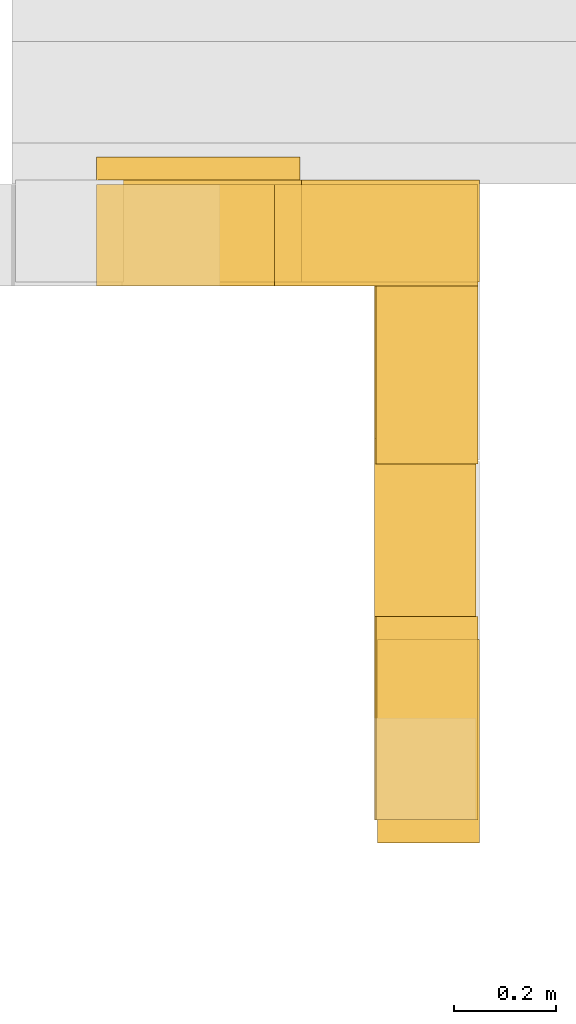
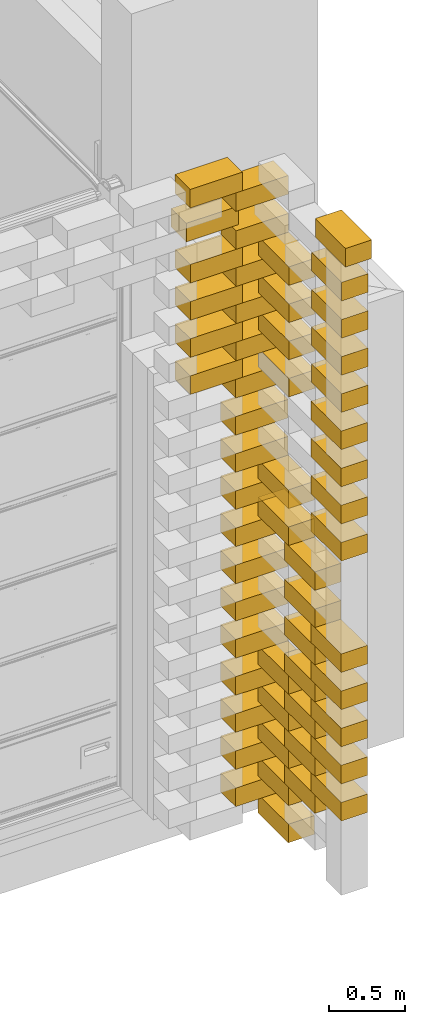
# One storey, part 57 of 62: 56 railings.
"""IFC2X3 building model written with IfcOpenShell, lengths in millimetres."""

from ifc_helpers import new_model, entity, si_unit, converted_unit, derived_unit, money_unit, direction, frame, origin_with_axes, place, context, subcontext, project, spatial, polyline, outline, extrude, material, type_object, element, save


model = new_model("IFC2X3")

# Units and contexts
model_context = context("Model", 3, precision=0.01, world=origin_with_axes(), true_north=direction((0.0, 1.0)))
body_context = subcontext(model_context, "Body", "Model", "MODEL_VIEW")
ifc_project = project(units=[si_unit("LENGTHUNIT", "METRE", prefix="MILLI"), si_unit("AREAUNIT", "SQUARE_METRE"), si_unit("VOLUMEUNIT", "CUBIC_METRE"), converted_unit("PLANEANGLEUNIT", "DEGREE", entity("IfcPlaneAngleMeasure", 0.0174532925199), si_unit("PLANEANGLEUNIT", "RADIAN"), dimensions=[0, 0, 0, 0, 0, 0, 0]), si_unit("SOLIDANGLEUNIT", "STERADIAN"), money_unit("EUR"), converted_unit("TIMEUNIT", "Year", entity("IfcTimeMeasure", 31556926.0), si_unit("TIMEUNIT", "SECOND"), dimensions=[0, 0, 1, 0, 0, 0, 0]), si_unit("MASSUNIT", "GRAM", prefix="KILO"), si_unit("THERMODYNAMICTEMPERATUREUNIT", "DEGREE_CELSIUS"), si_unit("LUMINOUSINTENSITYUNIT", "LUMEN"), si_unit("ENERGYUNIT", "JOULE", prefix="MEGA"), derived_unit("THERMALCONDUCTANCEUNIT", [(si_unit("POWERUNIT", "WATT"), 1), (si_unit("LENGTHUNIT", "METRE"), -1), (si_unit("THERMODYNAMICTEMPERATUREUNIT", "KELVIN"), -1)]), derived_unit("SPECIFICHEATCAPACITYUNIT", [(si_unit("ENERGYUNIT", "JOULE"), 1), (si_unit("MASSUNIT", "GRAM", prefix="KILO"), -1), (si_unit("THERMODYNAMICTEMPERATUREUNIT", "KELVIN"), -1)]), derived_unit("MASSDENSITYUNIT", [(si_unit("MASSUNIT", "GRAM", prefix="KILO"), 1), (si_unit("VOLUMEUNIT", "CUBIC_METRE"), -1)])], contexts=[model_context])

# Site, building, storey
site_placement = place(None, origin_with_axes())
site = spatial("IfcSite", under=ifc_project, at=site_placement, Name="KIRDE 14, ELVA", CompositionType="ELEMENT")
building_placement = place(site_placement, origin_with_axes())
building = spatial("IfcBuilding", under=site, at=building_placement, Name="PPA ja Päästeameti ühishoone", CompositionType="ELEMENT")
storey_placement = place(building_placement, origin_with_axes())
storey = spatial("IfcBuildingStorey", under=building, at=storey_placement, Name="Esimene korrus", CompositionType="ELEMENT", Elevation=0.0)

# Railings
ifc_material = material(Name="Air Space")
railing_type = type_object("IfcRailingType", Name="Air Space 200", PredefinedType="NOTDEFINED")
railing_1_placement = place(storey_placement, frame((38729.506899, -422.760597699, 5000.0), z_axis=(0.0, 0.0, 1.0), x_axis=(1.0, 0.0, 0.0)))
element("IfcRailing", 1, at=railing_1_placement, inside=storey, type_object=railing_type, material=ifc_material, Name="plokk", PredefinedType="NOTDEFINED", context=body_context, shape_type="SweptSolid", body=[
    extrude(outline(polyline([(0.0, -200.0), (400.000000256, -200.0), (400.000000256, 0.0), (0.0, 0.0), (0.0, -200.0)])), origin_with_axes(), (0.0, 0.0, 1.0), 150.0),
])
railing_2_placement = place(storey_placement, frame((39072.9681008, -431.000100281, 1250.0), z_axis=(0.0, 0.0, 1.0), x_axis=(1.0, 0.0, 0.0)))
element("IfcRailing", 2, at=railing_2_placement, inside=storey, type_object=railing_type, material=ifc_material, Name="plokk", PredefinedType="NOTDEFINED", context=body_context, shape_type="SweptSolid", body=[
    extrude(outline(polyline([(0.0, -200.0), (400.000000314, -200.0), (400.000000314, 0.0), (0.0, 0.0), (0.0, -200.0)])), origin_with_axes(), (0.0, 0.0, 1.0), 150.0),
])
railing_3_placement = place(storey_placement, frame((38726.5679149, -377.395680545, 4700.0), z_axis=(0.0, 0.0, 1.0), x_axis=(1.0, 0.0, 0.0)))
element("IfcRailing", 3, at=railing_3_placement, inside=storey, type_object=railing_type, material=ifc_material, Name="plokk", PredefinedType="NOTDEFINED", context=body_context, shape_type="SweptSolid", body=[
    extrude(outline(polyline([(0.0, -200.0), (400.000000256, -200.0), (400.000000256, 0.0), (0.0, 0.0), (0.0, -200.0)])), origin_with_axes(), (0.0, 0.0, 1.0), 150.0),
])
for number, where, z_axis, x_axis in (
    (4, (39072.9681008, -431.000100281, 3350.0), (0.0, 0.0, 1.0), (1.0, 0.0, 0.0)),
    (5, (39072.9681008, -431.000100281, 3050.0), (0.0, 0.0, 1.0), (1.0, 0.0, 0.0)),
    (6, (39072.9681008, -431.000100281, 1550.0), (0.0, 0.0, 1.0), (1.0, 0.0, 0.0)),
    (7, (39072.9681008, -431.000100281, 1850.0), (0.0, 0.0, 1.0), (1.0, 0.0, 0.0)),
    (8, (39072.9681008, -431.000100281, 2150.0), (0.0, 0.0, 1.0), (1.0, 0.0, 0.0)),
):
    element("IfcRailing", number, at=place(storey_placement, frame(where, z_axis=z_axis, x_axis=x_axis)), inside=storey, type_object=railing_type, material=ifc_material, Name="plokk", PredefinedType="NOTDEFINED", context=body_context, shape_type="SweptSolid", body=[
        extrude(outline(polyline([(0.0, -200.0), (400.000000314, -200.0), (400.000000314, 0.0), (0.0, 0.0), (0.0, -200.0)])), origin_with_axes(), (0.0, 0.0, 1.0), 150.0),
    ])
railing_4_placement = place(storey_placement, frame((39472.9681005, -581.000099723, 1100.0), z_axis=(0.0, 0.0, 1.0), x_axis=(-5.82076611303e-10, -1.0, 0.0)))
element("IfcRailing", 9, at=railing_4_placement, inside=storey, type_object=railing_type, material=ifc_material, Name="plokk", PredefinedType="NOTDEFINED", context=body_context, shape_type="SweptSolid", body=[
    extrude(outline(polyline([(0.0, -200.0), (399.99999851, -200.0), (399.99999851, 0.0), (0.0, 0.0), (0.0, -200.0)])), origin_with_axes(), (0.0, 0.0, 1.0), 150.0),
])
railing_5_placement = place(storey_placement, frame((39472.9681012, -1281.00009805, 1100.0), z_axis=(0.0, 0.0, 1.0), x_axis=(2.91038303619e-10, -1.0, 0.0)))
element("IfcRailing", 10, at=railing_5_placement, inside=storey, type_object=railing_type, material=ifc_material, Name="plokk", PredefinedType="NOTDEFINED", context=body_context, shape_type="SweptSolid", body=[
    extrude(outline(polyline([(0.0, -200.0), (400.000001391, -200.0), (400.000001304, 0.0), (0.0, 0.0), (0.0, -200.0)])), origin_with_axes(), (0.0, 0.0, 1.0), 150.0),
])
for number, where, z_axis, x_axis in (
    (11, (39472.9681008, -931.000098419, 650.0), (0.0, 0.0, 1.0), (7.27595759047e-10, -1.0, 0.0)),
    (12, (39472.9681008, -931.000098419, 950.0), (0.0, 0.0, 1.0), (7.27595759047e-10, -1.0, 0.0)),
):
    element("IfcRailing", number, at=place(storey_placement, frame(where, z_axis=z_axis, x_axis=x_axis)), inside=storey, type_object=railing_type, material=ifc_material, Name="plokk", PredefinedType="NOTDEFINED", context=body_context, shape_type="SweptSolid", body=[
        extrude(outline(polyline([(0.0, -200.0), (400.000001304, -200.0), (400.000001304, 0.0), (0.0, 0.0), (0.0, -200.0)])), origin_with_axes(), (0.0, 0.0, 1.0), 150.0),
    ])
railing_6_placement = place(storey_placement, frame((39472.9681012, -1281.00009805, 1700.0), z_axis=(0.0, 0.0, 1.0), x_axis=(2.91038303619e-10, -1.0, 0.0)))
element("IfcRailing", 13, at=railing_6_placement, inside=storey, type_object=railing_type, material=ifc_material, Name="plokk", PredefinedType="NOTDEFINED", context=body_context, shape_type="SweptSolid", body=[
    extrude(outline(polyline([(0.0, -200.0), (400.000001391, -200.0), (400.000001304, 0.0), (0.0, 0.0), (0.0, -200.0)])), origin_with_axes(), (0.0, 0.0, 1.0), 150.0),
])
railing_7_placement = place(storey_placement, frame((39472.9681008, -931.000098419, 350.0), z_axis=(0.0, 0.0, 1.0), x_axis=(7.27595759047e-10, -1.0, 0.0)))
element("IfcRailing", 14, at=railing_7_placement, inside=storey, type_object=railing_type, material=ifc_material, Name="plokk", PredefinedType="NOTDEFINED", context=body_context, shape_type="SweptSolid", body=[
    extrude(outline(polyline([(0.0, -200.0), (400.000001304, -200.0), (400.000001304, 0.0), (0.0, 0.0), (0.0, -200.0)])), origin_with_axes(), (0.0, 0.0, 1.0), 150.0),
])
railing_8_placement = place(storey_placement, frame((39072.9681008, -431.000100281, 950.0), z_axis=(0.0, 0.0, 1.0), x_axis=(1.0, 0.0, 0.0)))
element("IfcRailing", 15, at=railing_8_placement, inside=storey, type_object=railing_type, material=ifc_material, Name="plokk", PredefinedType="NOTDEFINED", context=body_context, shape_type="SweptSolid", body=[
    extrude(outline(polyline([(0.0, -200.0), (400.000000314, -200.0), (400.000000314, 0.0), (0.0, 0.0), (0.0, -200.0)])), origin_with_axes(), (0.0, 0.0, 1.0), 150.0),
])
railing_9_placement = place(storey_placement, frame((39472.9681012, -1281.00009805, 800.0), z_axis=(0.0, 0.0, 1.0), x_axis=(2.91038303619e-10, -1.0, 0.0)))
element("IfcRailing", 16, at=railing_9_placement, inside=storey, type_object=railing_type, material=ifc_material, Name="plokk", PredefinedType="NOTDEFINED", context=body_context, shape_type="SweptSolid", body=[
    extrude(outline(polyline([(0.0, -200.0), (400.000001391, -200.0), (400.000001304, 0.0), (0.0, 0.0), (0.0, -200.0)])), origin_with_axes(), (0.0, 0.0, 1.0), 150.0),
])
railing_10_placement = place(storey_placement, frame((39072.9681008, -431.000100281, 50.0), z_axis=(0.0, 0.0, 1.0), x_axis=(1.0, 0.0, 0.0)))
element("IfcRailing", 17, at=railing_10_placement, inside=storey, type_object=railing_type, material=ifc_material, Name="plokk", PredefinedType="NOTDEFINED", context=body_context, shape_type="SweptSolid", body=[
    extrude(outline(polyline([(0.0, -200.0), (400.000000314, -200.0), (400.000000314, 0.0), (0.0, 0.0), (0.0, -200.0)])), origin_with_axes(), (0.0, 0.0, 1.0), 150.0),
])
railing_11_placement = place(storey_placement, frame((39472.9681005, -581.000099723, -100.0), z_axis=(0.0, 0.0, 1.0), x_axis=(-5.82076611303e-10, -1.0, 0.0)))
element("IfcRailing", 18, at=railing_11_placement, inside=storey, type_object=railing_type, material=ifc_material, Name="plokk", PredefinedType="NOTDEFINED", context=body_context, shape_type="SweptSolid", body=[
    extrude(outline(polyline([(0.0, -200.0), (399.99999851, -200.0), (399.99999851, 0.0), (0.0, 0.0), (0.0, -200.0)])), origin_with_axes(), (0.0, 0.0, 1.0), 150.0),
])
railing_12_placement = place(storey_placement, frame((39472.9681012, -1281.00009805, 500.0), z_axis=(0.0, 0.0, 1.0), x_axis=(2.91038303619e-10, -1.0, 0.0)))
element("IfcRailing", 19, at=railing_12_placement, inside=storey, type_object=railing_type, material=ifc_material, Name="plokk", PredefinedType="NOTDEFINED", context=body_context, shape_type="SweptSolid", body=[
    extrude(outline(polyline([(0.0, -200.0), (400.000001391, -200.0), (400.000001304, 0.0), (0.0, 0.0), (0.0, -200.0)])), origin_with_axes(), (0.0, 0.0, 1.0), 150.0),
])
railing_13_placement = place(storey_placement, frame((39472.9681005, -581.000099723, 800.0), z_axis=(0.0, 0.0, 1.0), x_axis=(-5.82076611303e-10, -1.0, 0.0)))
element("IfcRailing", 20, at=railing_13_placement, inside=storey, type_object=railing_type, material=ifc_material, Name="plokk", PredefinedType="NOTDEFINED", context=body_context, shape_type="SweptSolid", body=[
    extrude(outline(polyline([(0.0, -200.0), (399.99999851, -200.0), (399.99999851, 0.0), (0.0, 0.0), (0.0, -200.0)])), origin_with_axes(), (0.0, 0.0, 1.0), 150.0),
])
railing_14_placement = place(storey_placement, frame((39072.9681008, -431.000100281, 650.0), z_axis=(0.0, 0.0, 1.0), x_axis=(1.0, 0.0, 0.0)))
element("IfcRailing", 21, at=railing_14_placement, inside=storey, type_object=railing_type, material=ifc_material, Name="plokk", PredefinedType="NOTDEFINED", context=body_context, shape_type="SweptSolid", body=[
    extrude(outline(polyline([(0.0, -200.0), (400.000000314, -200.0), (400.000000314, 0.0), (0.0, 0.0), (0.0, -200.0)])), origin_with_axes(), (0.0, 0.0, 1.0), 150.0),
])
railing_15_placement = place(storey_placement, frame((39472.9681005, -581.000099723, 500.0), z_axis=(0.0, 0.0, 1.0), x_axis=(-5.82076611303e-10, -1.0, 0.0)))
element("IfcRailing", 22, at=railing_15_placement, inside=storey, type_object=railing_type, material=ifc_material, Name="plokk", PredefinedType="NOTDEFINED", context=body_context, shape_type="SweptSolid", body=[
    extrude(outline(polyline([(0.0, -200.0), (399.99999851, -200.0), (399.99999851, 0.0), (0.0, 0.0), (0.0, -200.0)])), origin_with_axes(), (0.0, 0.0, 1.0), 150.0),
])
railing_16_placement = place(storey_placement, frame((39072.9681008, -431.000100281, 350.0), z_axis=(0.0, 0.0, 1.0), x_axis=(1.0, 0.0, 0.0)))
element("IfcRailing", 23, at=railing_16_placement, inside=storey, type_object=railing_type, material=ifc_material, Name="plokk", PredefinedType="NOTDEFINED", context=body_context, shape_type="SweptSolid", body=[
    extrude(outline(polyline([(0.0, -200.0), (400.000000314, -200.0), (400.000000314, 0.0), (0.0, 0.0), (0.0, -200.0)])), origin_with_axes(), (0.0, 0.0, 1.0), 150.0),
])
railing_17_placement = place(storey_placement, frame((39472.9681005, -581.000099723, 200.0), z_axis=(0.0, 0.0, 1.0), x_axis=(-5.82076611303e-10, -1.0, 0.0)))
element("IfcRailing", 24, at=railing_17_placement, inside=storey, type_object=railing_type, material=ifc_material, Name="plokk", PredefinedType="NOTDEFINED", context=body_context, shape_type="SweptSolid", body=[
    extrude(outline(polyline([(0.0, -200.0), (399.99999851, -200.0), (399.99999851, 0.0), (0.0, 0.0), (0.0, -200.0)])), origin_with_axes(), (0.0, 0.0, 1.0), 150.0),
])
for number, where, z_axis, x_axis in (
    (25, (39472.9681012, -1281.00009805, 2900.0), (0.0, 0.0, 1.0), (2.91038303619e-10, -1.0, 0.0)),
    (26, (39472.9681012, -1281.00009805, 3200.0), (0.0, 0.0, 1.0), (2.91038303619e-10, -1.0, 0.0)),
    (27, (39472.9681012, -1281.00009805, 2600.0), (0.0, 0.0, 1.0), (2.91038303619e-10, -1.0, 0.0)),
):
    element("IfcRailing", number, at=place(storey_placement, frame(where, z_axis=z_axis, x_axis=x_axis)), inside=storey, type_object=railing_type, material=ifc_material, Name="plokk", PredefinedType="NOTDEFINED", context=body_context, shape_type="SweptSolid", body=[
        extrude(outline(polyline([(0.0, -200.0), (400.000001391, -200.0), (400.000001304, 0.0), (0.0, 0.0), (0.0, -200.0)])), origin_with_axes(), (0.0, 0.0, 1.0), 150.0),
    ])
railing_18_placement = place(storey_placement, frame((39472.9681005, -581.000099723, 2300.0), z_axis=(0.0, 0.0, 1.0), x_axis=(-5.82076611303e-10, -1.0, 0.0)))
element("IfcRailing", 28, at=railing_18_placement, inside=storey, type_object=railing_type, material=ifc_material, Name="plokk", PredefinedType="NOTDEFINED", context=body_context, shape_type="SweptSolid", body=[
    extrude(outline(polyline([(0.0, -200.0), (399.99999851, -200.0), (399.99999851, 0.0), (0.0, 0.0), (0.0, -200.0)])), origin_with_axes(), (0.0, 0.0, 1.0), 150.0),
])
railing_19_placement = place(storey_placement, frame((39472.9681012, -1281.00009805, 3500.0), z_axis=(0.0, 0.0, 1.0), x_axis=(2.91038303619e-10, -1.0, 0.0)))
element("IfcRailing", 29, at=railing_19_placement, inside=storey, type_object=railing_type, material=ifc_material, Name="plokk", PredefinedType="NOTDEFINED", context=body_context, shape_type="SweptSolid", body=[
    extrude(outline(polyline([(0.0, -200.0), (400.000001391, -200.0), (400.000001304, 0.0), (0.0, 0.0), (0.0, -200.0)])), origin_with_axes(), (0.0, 0.0, 1.0), 150.0),
])
railing_20_placement = place(storey_placement, frame((39072.9681008, -431.000100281, 2450.0), z_axis=(0.0, 0.0, 1.0), x_axis=(1.0, 0.0, 0.0)))
element("IfcRailing", 30, at=railing_20_placement, inside=storey, type_object=railing_type, material=ifc_material, Name="plokk", PredefinedType="NOTDEFINED", context=body_context, shape_type="SweptSolid", body=[
    extrude(outline(polyline([(0.0, -200.0), (400.000000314, -200.0), (400.000000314, 0.0), (0.0, 0.0), (0.0, -200.0)])), origin_with_axes(), (0.0, 0.0, 1.0), 150.0),
])
railing_21_placement = place(storey_placement, frame((39472.9681005, -581.000099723, 2600.0), z_axis=(0.0, 0.0, 1.0), x_axis=(-5.82076611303e-10, -1.0, 0.0)))
element("IfcRailing", 31, at=railing_21_placement, inside=storey, type_object=railing_type, material=ifc_material, Name="plokk", PredefinedType="NOTDEFINED", context=body_context, shape_type="SweptSolid", body=[
    extrude(outline(polyline([(0.0, -200.0), (399.99999851, -200.0), (399.99999851, 0.0), (0.0, 0.0), (0.0, -200.0)])), origin_with_axes(), (0.0, 0.0, 1.0), 150.0),
])
railing_22_placement = place(storey_placement, frame((39472.9681012, -1281.00009805, 1400.0), z_axis=(0.0, 0.0, 1.0), x_axis=(2.91038303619e-10, -1.0, 0.0)))
element("IfcRailing", 32, at=railing_22_placement, inside=storey, type_object=railing_type, material=ifc_material, Name="plokk", PredefinedType="NOTDEFINED", context=body_context, shape_type="SweptSolid", body=[
    extrude(outline(polyline([(0.0, -200.0), (400.000001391, -200.0), (400.000001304, 0.0), (0.0, 0.0), (0.0, -200.0)])), origin_with_axes(), (0.0, 0.0, 1.0), 150.0),
])
railing_23_placement = place(storey_placement, frame((39479.5068994, -1326.3650152, 5000.0), z_axis=(0.0, 0.0, 1.0), x_axis=(2.91038303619e-10, -1.0, 0.0)))
element("IfcRailing", 33, at=railing_23_placement, inside=storey, type_object=railing_type, material=ifc_material, Name="plokk", PredefinedType="NOTDEFINED", context=body_context, shape_type="SweptSolid", body=[
    extrude(outline(polyline([(0.0, -200.0), (400.000001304, -200.0), (400.000001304, 0.0), (0.0, 0.0), (0.0, -200.0)])), origin_with_axes(), (0.0, 0.0, 1.0), 150.0),
])
railing_24_placement = place(storey_placement, frame((39072.9681008, -431.000100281, 2750.0), z_axis=(0.0, 0.0, 1.0), x_axis=(1.0, 0.0, 0.0)))
element("IfcRailing", 34, at=railing_24_placement, inside=storey, type_object=railing_type, material=ifc_material, Name="plokk", PredefinedType="NOTDEFINED", context=body_context, shape_type="SweptSolid", body=[
    extrude(outline(polyline([(0.0, -200.0), (400.000000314, -200.0), (400.000000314, 0.0), (0.0, 0.0), (0.0, -200.0)])), origin_with_axes(), (0.0, 0.0, 1.0), 150.0),
])
for number, where, z_axis, x_axis in (
    (35, (39476.5679152, -1281.00009805, 3800.0), (0.0, 0.0, 1.0), (2.91038303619e-10, -1.0, 0.0)),
    (36, (39476.5679152, -1281.00009805, 4400.0), (0.0, 0.0, 1.0), (2.91038303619e-10, -1.0, 0.0)),
    (37, (39476.5679152, -1281.00009805, 4100.0), (0.0, 0.0, 1.0), (2.91038303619e-10, -1.0, 0.0)),
    (38, (39476.5679152, -1281.00009805, 4700.0), (0.0, 0.0, 1.0), (2.91038303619e-10, -1.0, 0.0)),
):
    element("IfcRailing", number, at=place(storey_placement, frame(where, z_axis=z_axis, x_axis=x_axis)), inside=storey, type_object=railing_type, material=ifc_material, Name="plokk", PredefinedType="NOTDEFINED", context=body_context, shape_type="SweptSolid", body=[
        extrude(outline(polyline([(0.0, -200.0), (400.000001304, -200.0), (400.000001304, 0.0), (0.0, 0.0), (0.0, -200.0)])), origin_with_axes(), (0.0, 0.0, 1.0), 150.0),
    ])
railing_25_placement = place(storey_placement, frame((38726.5679149, -431.00009935, 3500.0), z_axis=(0.0, 0.0, 1.0), x_axis=(1.0, 0.0, 0.0)))
element("IfcRailing", 39, at=railing_25_placement, inside=storey, type_object=railing_type, material=ifc_material, Name="plokk", PredefinedType="NOTDEFINED", context=body_context, shape_type="SweptSolid", body=[
    extrude(outline(polyline([(0.0, -200.0), (400.000000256, -200.0), (400.000000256, 0.0), (0.0, 0.0), (0.0, -200.0)])), origin_with_axes(), (0.0, 0.0, 1.0), 150.0),
])
railing_26_placement = place(storey_placement, frame((39476.5679145, -581.000099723, 3500.0), z_axis=(0.0, 0.0, 1.0), x_axis=(-5.82076611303e-10, -1.0, 0.0)))
element("IfcRailing", 40, at=railing_26_placement, inside=storey, type_object=railing_type, material=ifc_material, Name="plokk", PredefinedType="NOTDEFINED", context=body_context, shape_type="SweptSolid", body=[
    extrude(outline(polyline([(0.0, -200.0), (399.99999851, -200.0), (399.99999851, 0.0), (0.0, 0.0), (0.0, -200.0)])), origin_with_axes(), (0.0, 0.0, 1.0), 150.0),
])
railing_27_placement = place(storey_placement, frame((39076.5679149, -431.000100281, 3650.0), z_axis=(0.0, 0.0, 1.0), x_axis=(1.0, 0.0, 0.0)))
element("IfcRailing", 41, at=railing_27_placement, inside=storey, type_object=railing_type, material=ifc_material, Name="plokk", PredefinedType="NOTDEFINED", context=body_context, shape_type="SweptSolid", body=[
    extrude(outline(polyline([(0.0, -200.0), (400.000000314, -200.0), (400.000000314, 0.0), (0.0, 0.0), (0.0, -200.0)])), origin_with_axes(), (0.0, 0.0, 1.0), 150.0),
])
railing_28_placement = place(storey_placement, frame((39476.5679145, -581.000099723, 3800.0), z_axis=(0.0, 0.0, 1.0), x_axis=(-5.82076611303e-10, -1.0, 0.0)))
element("IfcRailing", 42, at=railing_28_placement, inside=storey, type_object=railing_type, material=ifc_material, Name="plokk", PredefinedType="NOTDEFINED", context=body_context, shape_type="SweptSolid", body=[
    extrude(outline(polyline([(0.0, -200.0), (399.99999851, -200.0), (399.99999851, 0.0), (0.0, 0.0), (0.0, -200.0)])), origin_with_axes(), (0.0, 0.0, 1.0), 150.0),
])
railing_29_placement = place(storey_placement, frame((38726.5679149, -431.00009935, 3800.0), z_axis=(0.0, 0.0, 1.0), x_axis=(1.0, 0.0, 0.0)))
element("IfcRailing", 43, at=railing_29_placement, inside=storey, type_object=railing_type, material=ifc_material, Name="plokk", PredefinedType="NOTDEFINED", context=body_context, shape_type="SweptSolid", body=[
    extrude(outline(polyline([(0.0, -200.0), (400.000000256, -200.0), (400.000000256, 0.0), (0.0, 0.0), (0.0, -200.0)])), origin_with_axes(), (0.0, 0.0, 1.0), 150.0),
])
railing_30_placement = place(storey_placement, frame((39076.5679149, -431.000100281, 3950.0), z_axis=(0.0, 0.0, 1.0), x_axis=(1.0, 0.0, 0.0)))
element("IfcRailing", 44, at=railing_30_placement, inside=storey, type_object=railing_type, material=ifc_material, Name="plokk", PredefinedType="NOTDEFINED", context=body_context, shape_type="SweptSolid", body=[
    extrude(outline(polyline([(0.0, -200.0), (400.000000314, -200.0), (400.000000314, 0.0), (0.0, 0.0), (0.0, -200.0)])), origin_with_axes(), (0.0, 0.0, 1.0), 150.0),
])
railing_31_placement = place(storey_placement, frame((38726.5679149, -431.00009935, 4100.0), z_axis=(0.0, 0.0, 1.0), x_axis=(1.0, 0.0, 0.0)))
element("IfcRailing", 45, at=railing_31_placement, inside=storey, type_object=railing_type, material=ifc_material, Name="plokk", PredefinedType="NOTDEFINED", context=body_context, shape_type="SweptSolid", body=[
    extrude(outline(polyline([(0.0, -200.0), (400.000000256, -200.0), (400.000000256, 0.0), (0.0, 0.0), (0.0, -200.0)])), origin_with_axes(), (0.0, 0.0, 1.0), 150.0),
])
railing_32_placement = place(storey_placement, frame((39476.5679145, -581.000099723, 4100.0), z_axis=(0.0, 0.0, 1.0), x_axis=(-5.82076611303e-10, -1.0, 0.0)))
element("IfcRailing", 46, at=railing_32_placement, inside=storey, type_object=railing_type, material=ifc_material, Name="plokk", PredefinedType="NOTDEFINED", context=body_context, shape_type="SweptSolid", body=[
    extrude(outline(polyline([(0.0, -200.0), (399.99999851, -200.0), (399.99999851, 0.0), (0.0, 0.0), (0.0, -200.0)])), origin_with_axes(), (0.0, 0.0, 1.0), 150.0),
])
railing_33_placement = place(storey_placement, frame((39076.5679149, -431.000100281, 4250.0), z_axis=(0.0, 0.0, 1.0), x_axis=(1.0, 0.0, 0.0)))
element("IfcRailing", 47, at=railing_33_placement, inside=storey, type_object=railing_type, material=ifc_material, Name="plokk", PredefinedType="NOTDEFINED", context=body_context, shape_type="SweptSolid", body=[
    extrude(outline(polyline([(0.0, -200.0), (400.000000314, -200.0), (400.000000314, 0.0), (0.0, 0.0), (0.0, -200.0)])), origin_with_axes(), (0.0, 0.0, 1.0), 150.0),
])
railing_34_placement = place(storey_placement, frame((38726.5679149, -431.00009935, 4400.0), z_axis=(0.0, 0.0, 1.0), x_axis=(1.0, 0.0, 0.0)))
element("IfcRailing", 48, at=railing_34_placement, inside=storey, type_object=railing_type, material=ifc_material, Name="plokk", PredefinedType="NOTDEFINED", context=body_context, shape_type="SweptSolid", body=[
    extrude(outline(polyline([(0.0, -200.0), (400.000000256, -200.0), (400.000000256, 0.0), (0.0, 0.0), (0.0, -200.0)])), origin_with_axes(), (0.0, 0.0, 1.0), 150.0),
])
railing_35_placement = place(storey_placement, frame((39076.5679149, -431.000100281, 4550.0), z_axis=(0.0, 0.0, 1.0), x_axis=(1.0, 0.0, 0.0)))
element("IfcRailing", 49, at=railing_35_placement, inside=storey, type_object=railing_type, material=ifc_material, Name="plokk", PredefinedType="NOTDEFINED", context=body_context, shape_type="SweptSolid", body=[
    extrude(outline(polyline([(0.0, -200.0), (400.000000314, -200.0), (400.000000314, 0.0), (0.0, 0.0), (0.0, -200.0)])), origin_with_axes(), (0.0, 0.0, 1.0), 150.0),
])
railing_36_placement = place(storey_placement, frame((39476.5679145, -581.000099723, 4400.0), z_axis=(0.0, 0.0, 1.0), x_axis=(-5.82076611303e-10, -1.0, 0.0)))
element("IfcRailing", 50, at=railing_36_placement, inside=storey, type_object=railing_type, material=ifc_material, Name="plokk", PredefinedType="NOTDEFINED", context=body_context, shape_type="SweptSolid", body=[
    extrude(outline(polyline([(0.0, -200.0), (399.99999851, -200.0), (399.99999851, 0.0), (0.0, 0.0), (0.0, -200.0)])), origin_with_axes(), (0.0, 0.0, 1.0), 150.0),
])
railing_37_placement = place(storey_placement, frame((39079.506899, -422.760598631, 4850.0), z_axis=(0.0, 0.0, 1.0), x_axis=(1.0, 0.0, 0.0)))
element("IfcRailing", 51, at=railing_37_placement, inside=storey, type_object=railing_type, material=ifc_material, Name="plokk", PredefinedType="NOTDEFINED", context=body_context, shape_type="SweptSolid", body=[
    extrude(outline(polyline([(0.0, -200.0), (400.000000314, -200.0), (400.000000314, 0.0), (0.0, 0.0), (0.0, -200.0)])), origin_with_axes(), (0.0, 0.0, 1.0), 150.0),
])
for number, where, z_axis, x_axis in (
    (52, (39472.9681008, -931.000098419, 1250.0), (0.0, 0.0, 1.0), (7.27595759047e-10, -1.0, 0.0)),
    (53, (39472.9681008, -931.000098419, 1850.0), (0.0, 0.0, 1.0), (7.27595759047e-10, -1.0, 0.0)),
    (54, (39472.9681008, -931.000098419, 2150.0), (0.0, 0.0, 1.0), (7.27595759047e-10, -1.0, 0.0)),
):
    element("IfcRailing", number, at=place(storey_placement, frame(where, z_axis=z_axis, x_axis=x_axis)), inside=storey, type_object=railing_type, material=ifc_material, Name="plokk", PredefinedType="NOTDEFINED", context=body_context, shape_type="SweptSolid", body=[
        extrude(outline(polyline([(0.0, -200.0), (400.000001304, -200.0), (400.000001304, 0.0), (0.0, 0.0), (0.0, -200.0)])), origin_with_axes(), (0.0, 0.0, 1.0), 150.0),
    ])
railing_38_placement = place(storey_placement, frame((39472.9681005, -581.000099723, 2300.0), z_axis=(0.0, 0.0, 1.0), x_axis=(-5.82076611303e-10, -1.0, 0.0)))
element("IfcRailing", 55, at=railing_38_placement, inside=storey, type_object=railing_type, material=ifc_material, Name="plokk", PredefinedType="NOTDEFINED", context=body_context, shape_type="SweptSolid", body=[
    extrude(outline(polyline([(0.0, -200.0), (399.99999851, -200.0), (399.99999851, 0.0), (0.0, 0.0), (0.0, -200.0)])), origin_with_axes(), (0.0, 0.0, 1.0), 150.0),
])
railing_39_placement = place(storey_placement, frame((39472.9681008, -931.000098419, 1550.0), z_axis=(0.0, 0.0, 1.0), x_axis=(7.27595759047e-10, -1.0, 0.0)))
element("IfcRailing", 56, at=railing_39_placement, inside=storey, type_object=railing_type, material=ifc_material, Name="plokk", PredefinedType="NOTDEFINED", context=body_context, shape_type="SweptSolid", body=[
    extrude(outline(polyline([(0.0, -200.0), (400.000001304, -200.0), (400.000001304, 0.0), (0.0, 0.0), (0.0, -200.0)])), origin_with_axes(), (0.0, 0.0, 1.0), 150.0),
])

save(model, "model.ifc")
